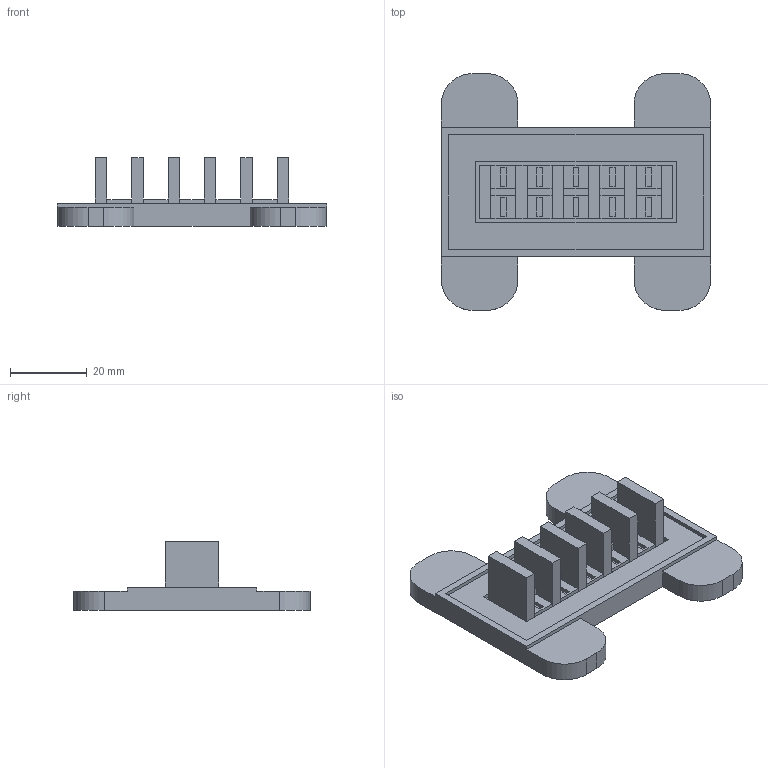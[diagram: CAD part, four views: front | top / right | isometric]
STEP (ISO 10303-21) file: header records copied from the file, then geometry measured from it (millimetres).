
FILE_DESCRIPTION(/* description */ (''),/* implementation_level */ '2;1');
FILE_NAME(/* name */ 'Cavity6CB v1.step',/* time_stamp */ '2024-07-04T14:24:07+05:30',/* author */ (''),/* organization */ (''),/* preprocessor_version */ 'ST-DEVELOPER v20',/* originating_system */ 'Autodesk Translation Framework v13.14.0.145',/* authorisation */ '');
FILE_SCHEMA (('AUTOMOTIVE_DESIGN { 1 0 10303 214 3 1 1 }'));
Length unit declared in the file: millimetre
Products named in the file (1): Cavity6CB
Bounding box: 70.3 x 61.8 x 18 mm (x, y, z)
Volume: 20513.5 mm3; surface area: 12635.4 mm2
Topology: 7 solids, 7 shells, 167 faces, 408 edges, 272 vertices
Faces by surface type: plane 159, cylinder 8
Entity records: 4845 total; most frequent: CARTESIAN_POINT 848, ORIENTED_EDGE 816, DIRECTION 760, EDGE_CURVE 408, LINE 392, VECTOR 392, VERTEX_POINT 272, EDGE_LOOP 184
